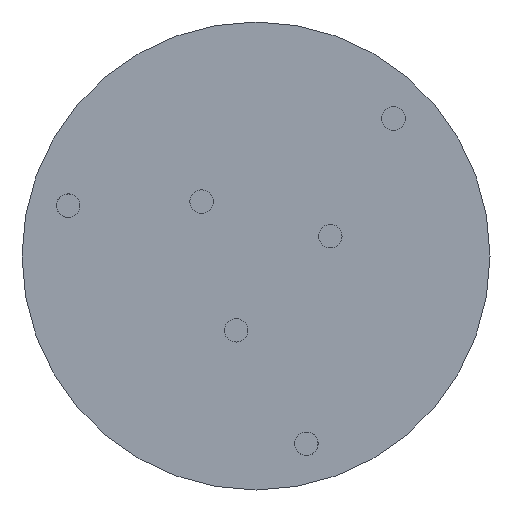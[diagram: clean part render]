
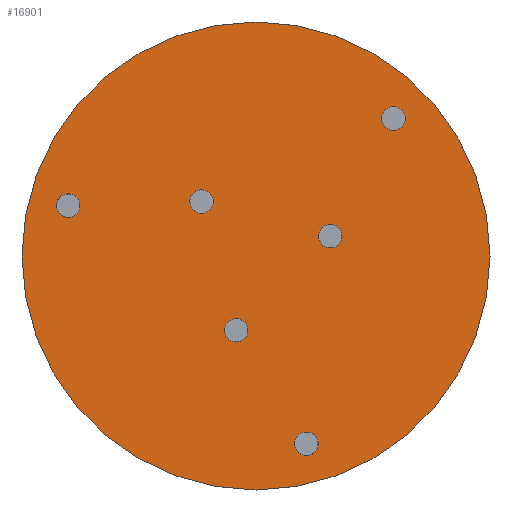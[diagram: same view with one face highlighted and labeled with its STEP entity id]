
A CAD part, front view. The second image highlights one B-rep face of the part: STEP entity #16901.
In plain terms, the highlighted planar face has unit normal (0, -1, 0).
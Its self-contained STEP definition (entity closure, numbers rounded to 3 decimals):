
#233 = ORIENTED_EDGE ( 'NONE', *, *, #3617, .T. ) ;
#296 = FACE_BOUND ( 'NONE', #5262, .T. ) ;
#552 = VERTEX_POINT ( 'NONE', #11726 ) ;
#738 = ORIENTED_EDGE ( 'NONE', *, *, #9340, .T. ) ;
#874 = CARTESIAN_POINT ( 'NONE',  ( -2.2, -16.165, -8.21 ) ) ;
#1289 = AXIS2_PLACEMENT_3D ( 'NONE', #5439, #15005, #12423 ) ;
#1379 = DIRECTION ( 'NONE',  ( 0., 1., 0. ) ) ;
#1537 = CARTESIAN_POINT ( 'NONE',  ( 8.21, -16.165, 3.5 ) ) ;
#1813 = EDGE_LOOP ( 'NONE', ( #3574, #15898 ) ) ;
#1872 = DIRECTION ( 'NONE',  ( 0., 0., 1. ) ) ;
#1905 = AXIS2_PLACEMENT_3D ( 'NONE', #5133, #13569, #15282 ) ;
#2130 = ORIENTED_EDGE ( 'NONE', *, *, #6625, .T. ) ;
#2248 = VERTEX_POINT ( 'NONE', #4946 ) ;
#2600 = AXIS2_PLACEMENT_3D ( 'NONE', #4349, #15984, #5194 ) ;
#2680 = DIRECTION ( 'NONE',  ( 0., 0., 1. ) ) ;
#2912 = AXIS2_PLACEMENT_3D ( 'NONE', #17195, #15174, #1872 ) ;
#3036 = DIRECTION ( 'NONE',  ( 0., 0., 1. ) ) ;
#3431 = DIRECTION ( 'NONE',  ( 0., 0., 1. ) ) ;
#3574 = ORIENTED_EDGE ( 'NONE', *, *, #16615, .T. ) ;
#3617 = EDGE_CURVE ( 'NONE', #5741, #7519, #6893, .T. ) ;
#3787 = CARTESIAN_POINT ( 'NONE',  ( -20.767, -16.165, 5.565 ) ) ;
#4028 = AXIS2_PLACEMENT_3D ( 'NONE', #6388, #7592, #8490 ) ;
#4349 = CARTESIAN_POINT ( 'NONE',  ( 8.21, -16.165, 2.2 ) ) ;
#4909 = DIRECTION ( 'NONE',  ( 0., 1., 0. ) ) ;
#4946 = CARTESIAN_POINT ( 'NONE',  ( 5.565, -16.165, -22.067 ) ) ;
#5127 = EDGE_LOOP ( 'NONE', ( #2130, #14738 ) ) ;
#5133 = CARTESIAN_POINT ( 'NONE',  ( -2.2, -16.165, -8.21 ) ) ;
#5173 = DIRECTION ( 'NONE',  ( 0., 0., -1. ) ) ;
#5194 = DIRECTION ( 'NONE',  ( 0., 0., 1. ) ) ;
#5220 = FACE_OUTER_BOUND ( 'NONE', #1813, .T. ) ;
#5262 = EDGE_LOOP ( 'NONE', ( #6474, #738 ) ) ;
#5301 = ORIENTED_EDGE ( 'NONE', *, *, #8066, .T. ) ;
#5439 = CARTESIAN_POINT ( 'NONE',  ( 0., -16.165, 0. ) ) ;
#5595 = EDGE_LOOP ( 'NONE', ( #5301, #6041 ) ) ;
#5656 = EDGE_LOOP ( 'NONE', ( #10009, #233 ) ) ;
#5673 = CIRCLE ( 'NONE', #11062, 1.3 ) ;
#5741 = VERTEX_POINT ( 'NONE', #12725 ) ;
#5768 = CIRCLE ( 'NONE', #2600, 1.3 ) ;
#5882 = EDGE_CURVE ( 'NONE', #10024, #12243, #6001, .T. ) ;
#6001 = CIRCLE ( 'NONE', #16236, 1.3 ) ;
#6041 = ORIENTED_EDGE ( 'NONE', *, *, #13449, .T. ) ;
#6056 = ORIENTED_EDGE ( 'NONE', *, *, #17275, .T. ) ;
#6077 = EDGE_CURVE ( 'NONE', #2248, #8330, #8056, .T. ) ;
#6159 = CARTESIAN_POINT ( 'NONE',  ( 0., -16.165, -25.87 ) ) ;
#6385 = CARTESIAN_POINT ( 'NONE',  ( 0., -16.165, 25.87 ) ) ;
#6388 = CARTESIAN_POINT ( 'NONE',  ( 0., -16.165, 0. ) ) ;
#6469 = AXIS2_PLACEMENT_3D ( 'NONE', #3787, #9960, #2680 ) ;
#6474 = ORIENTED_EDGE ( 'NONE', *, *, #15385, .T. ) ;
#6517 = EDGE_CURVE ( 'NONE', #7519, #5741, #16057, .T. ) ;
#6625 = EDGE_CURVE ( 'NONE', #8330, #2248, #9575, .T. ) ;
#6833 = ORIENTED_EDGE ( 'NONE', *, *, #13731, .T. ) ;
#6893 = CIRCLE ( 'NONE', #2912, 1.3 ) ;
#6984 = DIRECTION ( 'NONE',  ( 0., 0., 1. ) ) ;
#7448 = CIRCLE ( 'NONE', #16515, 1.3 ) ;
#7519 = VERTEX_POINT ( 'NONE', #8670 ) ;
#7592 = DIRECTION ( 'NONE',  ( 0., -1., 0. ) ) ;
#7736 = VERTEX_POINT ( 'NONE', #14139 ) ;
#7742 = ORIENTED_EDGE ( 'NONE', *, *, #5882, .T. ) ;
#7877 = FACE_BOUND ( 'NONE', #8546, .T. ) ;
#8036 = CARTESIAN_POINT ( 'NONE',  ( -2.2, -16.165, -6.91 ) ) ;
#8056 = CIRCLE ( 'NONE', #11484, 1.3 ) ;
#8057 = CARTESIAN_POINT ( 'NONE',  ( 5.565, -16.165, -20.767 ) ) ;
#8066 = EDGE_CURVE ( 'NONE', #16041, #12963, #14002, .T. ) ;
#8193 = FACE_BOUND ( 'NONE', #5127, .T. ) ;
#8279 = DIRECTION ( 'NONE',  ( 0., 1., 0. ) ) ;
#8330 = VERTEX_POINT ( 'NONE', #17726 ) ;
#8490 = DIRECTION ( 'NONE',  ( 0., 0., -1. ) ) ;
#8546 = EDGE_LOOP ( 'NONE', ( #14866, #6833 ) ) ;
#8575 = EDGE_LOOP ( 'NONE', ( #7742, #6056 ) ) ;
#8670 = CARTESIAN_POINT ( 'NONE',  ( 15.203, -16.165, 16.503 ) ) ;
#8723 = DIRECTION ( 'NONE',  ( 0., 1., 0. ) ) ;
#9340 = EDGE_CURVE ( 'NONE', #552, #10271, #16531, .T. ) ;
#9408 = CIRCLE ( 'NONE', #1905, 1.3 ) ;
#9507 = DIRECTION ( 'NONE',  ( 0., 0., 1. ) ) ;
#9575 = CIRCLE ( 'NONE', #9887, 1.3 ) ;
#9639 = CARTESIAN_POINT ( 'NONE',  ( -6.01, -16.165, 6.01 ) ) ;
#9682 = CIRCLE ( 'NONE', #1289, 25.87 ) ;
#9778 = CARTESIAN_POINT ( 'NONE',  ( 15.203, -16.165, 15.203 ) ) ;
#9833 = CARTESIAN_POINT ( 'NONE',  ( -6.01, -16.165, 4.71 ) ) ;
#9887 = AXIS2_PLACEMENT_3D ( 'NONE', #8057, #16698, #11824 ) ;
#9944 = PLANE ( 'NONE',  #4028 ) ;
#9960 = DIRECTION ( 'NONE',  ( 0., 1., 0. ) ) ;
#10009 = ORIENTED_EDGE ( 'NONE', *, *, #6517, .T. ) ;
#10024 = VERTEX_POINT ( 'NONE', #15449 ) ;
#10221 = FACE_BOUND ( 'NONE', #5595, .T. ) ;
#10271 = VERTEX_POINT ( 'NONE', #8036 ) ;
#10361 = CARTESIAN_POINT ( 'NONE',  ( -20.767, -16.165, 4.265 ) ) ;
#10378 = AXIS2_PLACEMENT_3D ( 'NONE', #874, #12499, #6984 ) ;
#10435 = EDGE_CURVE ( 'NONE', #17553, #7736, #11991, .T. ) ;
#10553 = CARTESIAN_POINT ( 'NONE',  ( 5.565, -16.165, -20.767 ) ) ;
#10883 = CARTESIAN_POINT ( 'NONE',  ( -6.01, -16.165, 6.01 ) ) ;
#10931 = CIRCLE ( 'NONE', #15180, 25.87 ) ;
#11062 = AXIS2_PLACEMENT_3D ( 'NONE', #16490, #8723, #17925 ) ;
#11133 = DIRECTION ( 'NONE',  ( 0., 0., 1. ) ) ;
#11484 = AXIS2_PLACEMENT_3D ( 'NONE', #10553, #14240, #11133 ) ;
#11726 = CARTESIAN_POINT ( 'NONE',  ( -2.2, -16.165, -9.51 ) ) ;
#11824 = DIRECTION ( 'NONE',  ( 0., 0., 1. ) ) ;
#11991 = CIRCLE ( 'NONE', #17823, 1.3 ) ;
#12243 = VERTEX_POINT ( 'NONE', #9833 ) ;
#12423 = DIRECTION ( 'NONE',  ( 0., 0., -1. ) ) ;
#12499 = DIRECTION ( 'NONE',  ( 0., 1., 0. ) ) ;
#12604 = CARTESIAN_POINT ( 'NONE',  ( -20.767, -16.165, 6.865 ) ) ;
#12725 = CARTESIAN_POINT ( 'NONE',  ( 15.203, -16.165, 13.903 ) ) ;
#12838 = AXIS2_PLACEMENT_3D ( 'NONE', #9778, #14622, #9507 ) ;
#12963 = VERTEX_POINT ( 'NONE', #10361 ) ;
#13065 = FACE_BOUND ( 'NONE', #5656, .T. ) ;
#13339 = DIRECTION ( 'NONE',  ( 0., 0., 1. ) ) ;
#13449 = EDGE_CURVE ( 'NONE', #12963, #16041, #5673, .T. ) ;
#13569 = DIRECTION ( 'NONE',  ( 0., 1., 0. ) ) ;
#13731 = EDGE_CURVE ( 'NONE', #7736, #17553, #5768, .T. ) ;
#13790 = VERTEX_POINT ( 'NONE', #6385 ) ;
#14002 = CIRCLE ( 'NONE', #6469, 1.3 ) ;
#14139 = CARTESIAN_POINT ( 'NONE',  ( 8.21, -16.165, 0.9 ) ) ;
#14240 = DIRECTION ( 'NONE',  ( 0., 1., 0. ) ) ;
#14622 = DIRECTION ( 'NONE',  ( 0., 1., 0. ) ) ;
#14738 = ORIENTED_EDGE ( 'NONE', *, *, #6077, .T. ) ;
#14866 = ORIENTED_EDGE ( 'NONE', *, *, #10435, .T. ) ;
#15005 = DIRECTION ( 'NONE',  ( 0., -1., 0. ) ) ;
#15174 = DIRECTION ( 'NONE',  ( 0., 1., 0. ) ) ;
#15180 = AXIS2_PLACEMENT_3D ( 'NONE', #16230, #17645, #5173 ) ;
#15282 = DIRECTION ( 'NONE',  ( 0., 0., 1. ) ) ;
#15385 = EDGE_CURVE ( 'NONE', #10271, #552, #9408, .T. ) ;
#15449 = CARTESIAN_POINT ( 'NONE',  ( -6.01, -16.165, 7.31 ) ) ;
#15655 = FACE_BOUND ( 'NONE', #8575, .T. ) ;
#15689 = EDGE_CURVE ( 'NONE', #17425, #13790, #10931, .T. ) ;
#15898 = ORIENTED_EDGE ( 'NONE', *, *, #15689, .T. ) ;
#15984 = DIRECTION ( 'NONE',  ( 0., 1., 0. ) ) ;
#16041 = VERTEX_POINT ( 'NONE', #12604 ) ;
#16057 = CIRCLE ( 'NONE', #12838, 1.3 ) ;
#16230 = CARTESIAN_POINT ( 'NONE',  ( 0., -16.165, 0. ) ) ;
#16236 = AXIS2_PLACEMENT_3D ( 'NONE', #9639, #4909, #13339 ) ;
#16490 = CARTESIAN_POINT ( 'NONE',  ( -20.767, -16.165, 5.565 ) ) ;
#16515 = AXIS2_PLACEMENT_3D ( 'NONE', #10883, #8279, #3036 ) ;
#16531 = CIRCLE ( 'NONE', #10378, 1.3 ) ;
#16615 = EDGE_CURVE ( 'NONE', #13790, #17425, #9682, .T. ) ;
#16698 = DIRECTION ( 'NONE',  ( 0., 1., 0. ) ) ;
#16901 = ADVANCED_FACE ( 'NONE', ( #10221, #15655, #13065, #7877, #8193, #296, #5220 ), #9944, .T. ) ;
#17195 = CARTESIAN_POINT ( 'NONE',  ( 15.203, -16.165, 15.203 ) ) ;
#17275 = EDGE_CURVE ( 'NONE', #12243, #10024, #7448, .T. ) ;
#17298 = CARTESIAN_POINT ( 'NONE',  ( 8.21, -16.165, 2.2 ) ) ;
#17425 = VERTEX_POINT ( 'NONE', #6159 ) ;
#17553 = VERTEX_POINT ( 'NONE', #1537 ) ;
#17645 = DIRECTION ( 'NONE',  ( 0., -1., 0. ) ) ;
#17726 = CARTESIAN_POINT ( 'NONE',  ( 5.565, -16.165, -19.467 ) ) ;
#17823 = AXIS2_PLACEMENT_3D ( 'NONE', #17298, #1379, #3431 ) ;
#17925 = DIRECTION ( 'NONE',  ( 0., 0., 1. ) ) ;
